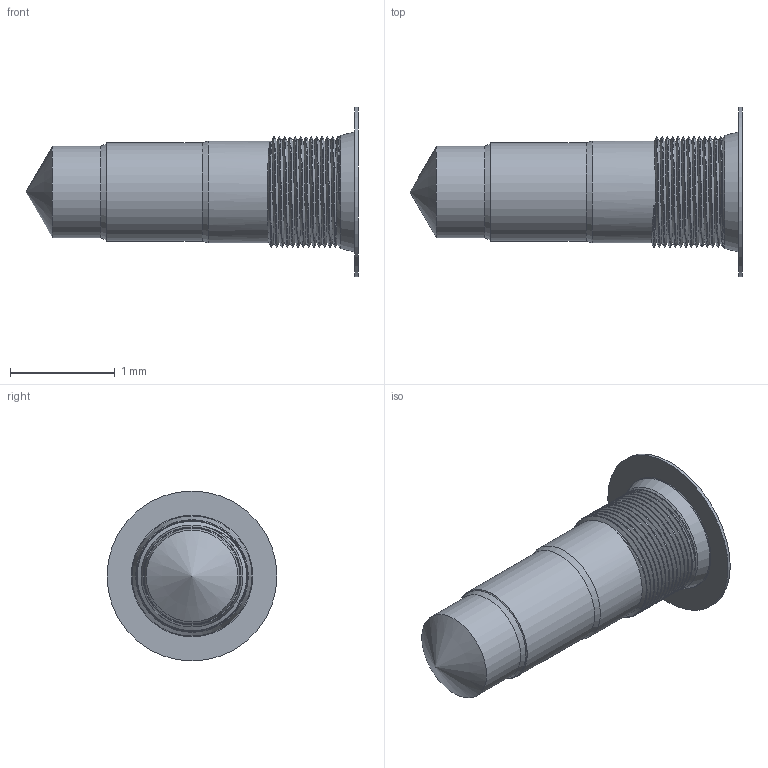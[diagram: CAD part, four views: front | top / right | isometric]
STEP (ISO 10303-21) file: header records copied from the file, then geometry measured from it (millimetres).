
FILE_DESCRIPTION(/* description */ (''),/* implementation_level */ '2;1');
FILE_NAME(/* name */ '\\tecnord.com\reparti\25-CAD_3D\ATTREZZATURE\Cavità\Tecnord 3W.stp',/* time_stamp */ '2016-12-06T14:20:33+01:00',/* author */ ('gmonti'),/* organization */ (''),/* preprocessor_version */ 'ST-DEVELOPER v16.1',/* originating_system */ 'Autodesk Inventor 2016',/* authorisation */ '');
FILE_SCHEMA (('AUTOMOTIVE_DESIGN { 1 0 10303 214 3 1 1 }'));
Length unit declared in the file: millimetre
Products named in the file (1): Tecnord 3W
Bounding box: 3.17 x 1.62 x 1.62 mm (x, y, z)
Volume: 2.2 mm3; surface area: 14.6 mm2
Topology: 1 solids, 1 shells, 21 faces, 49 edges, 31 vertices
Faces by surface type: cone 8, cylinder 4, torus 3, bspline 3, plane 3
Full cylindrical faces by diameter (mm): 0.876 x1, 0.938 x1, 0.975 x1, 1.625 x1
Entity records: 2332 total; most frequent: CARTESIAN_POINT 1940, DIRECTION 67, ORIENTED_EDGE 66, EDGE_CURVE 33, AXIS2_PLACEMENT_3D 33, EDGE_LOOP 32, VERTEX_POINT 27, FACE_OUTER_BOUND 20
